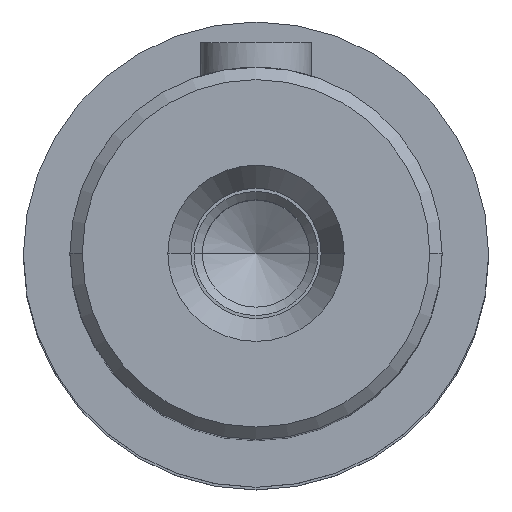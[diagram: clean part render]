
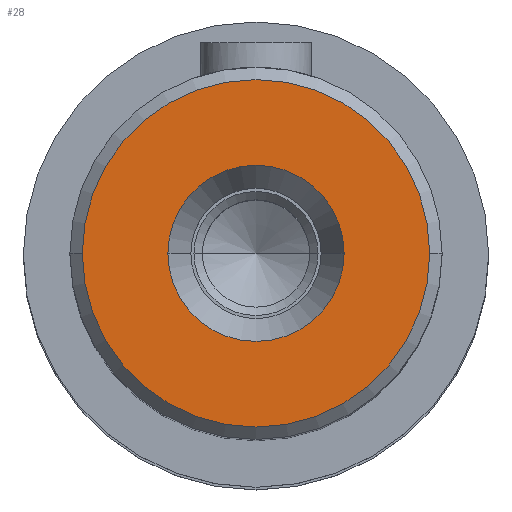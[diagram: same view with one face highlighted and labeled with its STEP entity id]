
A CAD part, top view. The second image highlights one B-rep face of the part: STEP entity #28.
In plain terms, the highlighted planar face has unit normal (0, 0, 1) as drawn and (1, 0, 0) by its records, which use the part's own axes.
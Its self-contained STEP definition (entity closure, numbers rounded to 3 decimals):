
#28=ADVANCED_FACE('',(#90,#76),#762,.T.);
#76=FACE_BOUND('',#149,.T.);
#90=FACE_OUTER_BOUND('',#148,.T.);
#148=EDGE_LOOP('',(#242,#243));
#149=EDGE_LOOP('',(#244,#245));
#242=ORIENTED_EDGE('',*,*,#430,.F.);
#243=ORIENTED_EDGE('',*,*,#433,.F.);
#244=ORIENTED_EDGE('',*,*,#503,.F.);
#245=ORIENTED_EDGE('',*,*,#462,.F.);
#430=EDGE_CURVE('',#693,#696,#578,.T.);
#433=EDGE_CURVE('',#696,#693,#580,.T.);
#462=EDGE_CURVE('',#695,#735,#592,.T.);
#503=EDGE_CURVE('',#735,#695,#615,.T.);
#578=TRIMMED_CURVE($,#631,(#1567),(#1568),.T.,.CARTESIAN.);
#580=TRIMMED_CURVE($,#633,(#1575),(#1576),.T.,.CARTESIAN.);
#592=TRIMMED_CURVE($,#645,(#1645),(#1646),.T.,.CARTESIAN.);
#615=TRIMMED_CURVE($,#668,(#1750),(#1751),.T.,.CARTESIAN.);
#631=CIRCLE('',#1016,28.);
#633=CIRCLE('',#1018,28.);
#645=CIRCLE('',#1030,14.2);
#668=CIRCLE('',#1053,14.2);
#693=VERTEX_POINT('',#1428);
#695=VERTEX_POINT('',#1430);
#696=VERTEX_POINT('',#1431);
#735=VERTEX_POINT('',#1470);
#762=PLANE('',#980);
#980=AXIS2_PLACEMENT_3D('',#1233,#1075,$);
#1016=AXIS2_PLACEMENT_3D($,#1566,#1120,#1121);
#1018=AXIS2_PLACEMENT_3D($,#1574,#1124,#1125);
#1030=AXIS2_PLACEMENT_3D($,#1644,#1148,#1149);
#1053=AXIS2_PLACEMENT_3D($,#1749,#1194,#1195);
#1075=DIRECTION('',(1.,0.,0.));
#1120=DIRECTION('',(-1.,0.,0.));
#1121=DIRECTION('',(0.,0.,1.));
#1124=DIRECTION('',(-1.,0.,0.));
#1125=DIRECTION('',(0.,0.,-1.));
#1148=DIRECTION('',(1.,0.,0.));
#1149=DIRECTION('',(0.,0.,-1.));
#1194=DIRECTION('',(1.,0.,0.));
#1195=DIRECTION('',(0.,0.,1.));
#1233=CARTESIAN_POINT('',(245.,-33.66,-33.66));
#1428=CARTESIAN_POINT('',(245.,0.,28.));
#1430=CARTESIAN_POINT('',(245.,0.,-14.2));
#1431=CARTESIAN_POINT('',(245.,0.,-28.));
#1470=CARTESIAN_POINT('',(245.,0.,14.2));
#1566=CARTESIAN_POINT('',(245.,0.,0.));
#1567=CARTESIAN_POINT('',(245.,0.,28.));
#1568=CARTESIAN_POINT('',(245.,0.,-28.));
#1574=CARTESIAN_POINT('',(245.,0.,0.));
#1575=CARTESIAN_POINT('',(245.,0.,-28.));
#1576=CARTESIAN_POINT('',(245.,0.,28.));
#1644=CARTESIAN_POINT('',(245.,0.,0.));
#1645=CARTESIAN_POINT('',(245.,0.,-14.2));
#1646=CARTESIAN_POINT('',(245.,0.,14.2));
#1749=CARTESIAN_POINT('',(245.,0.,0.));
#1750=CARTESIAN_POINT('',(245.,0.,14.2));
#1751=CARTESIAN_POINT('',(245.,0.,-14.2));
